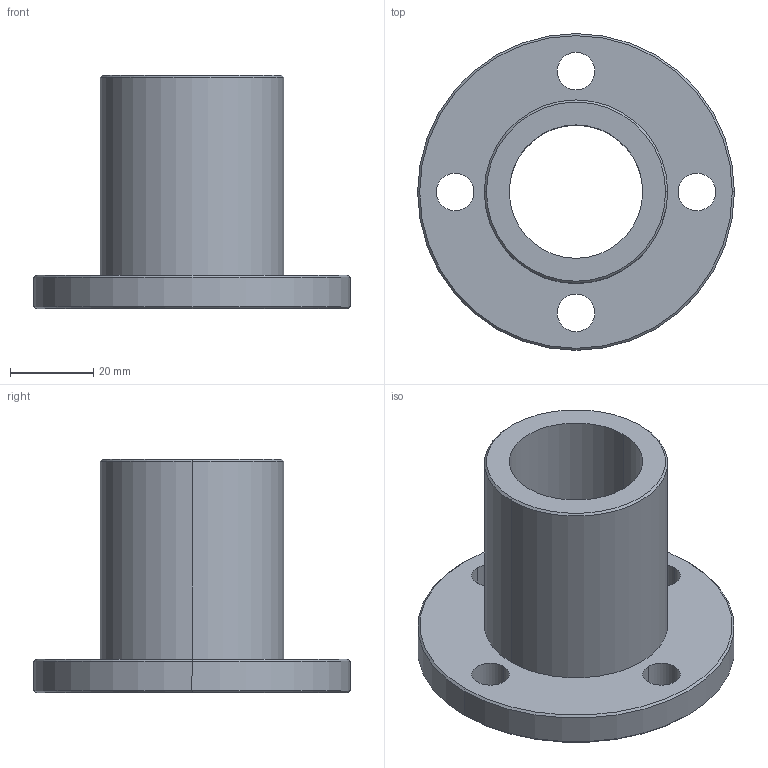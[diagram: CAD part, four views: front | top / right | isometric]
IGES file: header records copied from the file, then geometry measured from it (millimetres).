
Start section: 3D InterOp IGES (Version 21 0 1), Spatial Corp. Copyright (c) 1999-2007.
Global section: file name: TMFON-32R.igs; native system: Spatial Corp.; preprocessor: 3D InterOp GENERIC/IGES 3.0; author: Noname; organization: Noname; date: 20220208.143531; units: millimetre
Bounding box: 76 x 76 x 56 mm (x, y, z)
Surface area: 21853.8 mm2 (no closed solid volume)
Topology: 0 solids, 0 shells, 23 faces, 108 edges, 108 vertices
Faces by surface type: revolution 20, extrusion 3
